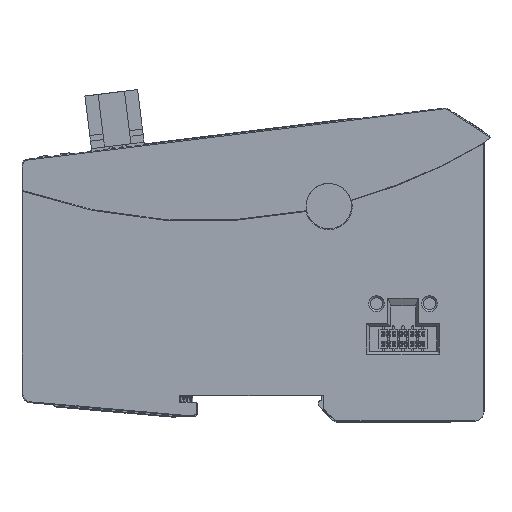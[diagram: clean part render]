
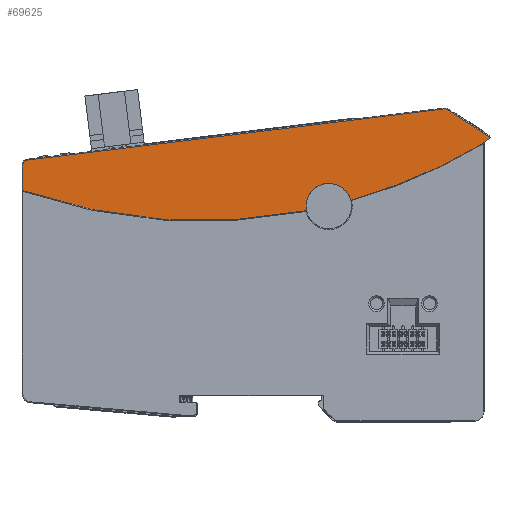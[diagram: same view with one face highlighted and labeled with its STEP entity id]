
A CAD part, top view. The second image highlights one B-rep face of the part: STEP entity #69625.
In plain terms, the highlighted planar face has unit normal (0, 0, 1).
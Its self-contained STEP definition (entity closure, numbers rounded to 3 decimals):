
#56630=AXIS2_PLACEMENT_3D('Circle Axis2P3D',#56628,#56629,$) ;
#56655=AXIS2_PLACEMENT_3D('Circle Axis2P3D',#56653,#56654,$) ;
#69462=AXIS2_PLACEMENT_3D('Circle Axis2P3D',#69460,#69461,$) ;
#69486=AXIS2_PLACEMENT_3D('Circle Axis2P3D',#69484,#69485,$) ;
#69499=AXIS2_PLACEMENT_3D('Plane Axis2P3D',#69496,#69497,#69498) ;
#69529=AXIS2_PLACEMENT_3D('Circle Axis2P3D',#69527,#69528,$) ;
#69561=AXIS2_PLACEMENT_3D('Circle Axis2P3D',#69559,#69560,$) ;
#69568=AXIS2_PLACEMENT_3D('Circle Axis2P3D',#69566,#69567,$) ;
#69604=AXIS2_PLACEMENT_3D('Circle Axis2P3D',#69602,#69603,$) ;
#48254=CARTESIAN_POINT('Vertex',(109.882,76.012,23.3)) ;
#48261=CARTESIAN_POINT('Vertex',(-0.258,62.488,23.3)) ;
#48264=CARTESIAN_POINT('Line Origine',(60.199,69.912,23.3)) ;
#56604=CARTESIAN_POINT('Vertex',(120.249,66.935,23.3)) ;
#56625=CARTESIAN_POINT('Vertex',(120.3,66.949,23.3)) ;
#56628=CARTESIAN_POINT('Axis2P3D Location',(120.3,66.849,23.3)) ;
#56650=CARTESIAN_POINT('Vertex',(120.399,67.159,23.3)) ;
#56653=CARTESIAN_POINT('Axis2P3D Location',(120.6,66.936,23.3)) ;
#69457=CARTESIAN_POINT('Vertex',(-1.4,61.198,23.3)) ;
#69460=CARTESIAN_POINT('Axis2P3D Location',(-0.1,61.198,23.3)) ;
#69481=CARTESIAN_POINT('Vertex',(110.749,75.812,23.3)) ;
#69484=CARTESIAN_POINT('Axis2P3D Location',(110.041,74.722,23.3)) ;
#69496=CARTESIAN_POINT('Axis2P3D Location',(-1.6,-1.675,23.3)) ;
#69501=CARTESIAN_POINT('Line Origine',(121.058,67.752,23.3)) ;
#69505=CARTESIAN_POINT('Vertex',(121.716,68.345,23.3)) ;
#69508=CARTESIAN_POINT('Line Origine',(121.673,68.545,23.3)) ;
#69512=CARTESIAN_POINT('Vertex',(121.631,68.745,23.3)) ;
#69515=CARTESIAN_POINT('Line Origine',(116.19,72.278,23.3)) ;
#69520=CARTESIAN_POINT('Line Origine',(-1.4,57.827,23.3)) ;
#69524=CARTESIAN_POINT('Vertex',(-1.4,54.456,23.3)) ;
#69527=CARTESIAN_POINT('Axis2P3D Location',(46.007,191.487,23.3)) ;
#69531=CARTESIAN_POINT('Vertex',(73.331,49.085,23.3)) ;
#69535=CARTESIAN_POINT('Control Point',(73.331,49.085,23.3)) ;
#69536=CARTESIAN_POINT('Control Point',(73.344,49.087,23.3)) ;
#69537=CARTESIAN_POINT('Control Point',(73.357,49.088,23.3)) ;
#69538=CARTESIAN_POINT('Control Point',(73.37,49.089,23.3)) ;
#69539=CARTESIAN_POINT('Control Point',(73.396,49.087,23.3)) ;
#69540=CARTESIAN_POINT('Control Point',(73.421,49.082,23.3)) ;
#69541=CARTESIAN_POINT('Control Point',(73.433,49.078,23.3)) ;
#69542=CARTESIAN_POINT('Control Point',(73.457,49.069,23.3)) ;
#69543=CARTESIAN_POINT('Control Point',(73.48,49.055,23.3)) ;
#69544=CARTESIAN_POINT('Control Point',(73.49,49.048,23.3)) ;
#69545=CARTESIAN_POINT('Control Point',(73.51,49.031,23.3)) ;
#69546=CARTESIAN_POINT('Control Point',(73.527,49.012,23.3)) ;
#69547=CARTESIAN_POINT('Control Point',(73.535,49.001,23.3)) ;
#69548=CARTESIAN_POINT('Control Point',(73.545,48.984,23.3)) ;
#69549=CARTESIAN_POINT('Control Point',(73.553,48.967,23.3)) ;
#69550=CARTESIAN_POINT('Control Point',(73.555,48.961,23.3)) ;
#69551=CARTESIAN_POINT('Control Point',(73.559,48.952,23.3)) ;
#69552=CARTESIAN_POINT('Control Point',(73.561,48.943,23.3)) ;
#69553=CARTESIAN_POINT('Control Point',(73.562,48.94,23.3)) ;
#69554=CARTESIAN_POINT('Control Point',(73.563,48.937,23.3)) ;
#69555=CARTESIAN_POINT('Control Point',(73.563,48.935,23.3)) ;
#69556=CARTESIAN_POINT('Vertex',(73.563,48.935,23.3)) ;
#69559=CARTESIAN_POINT('Axis2P3D Location',(79.4,50.325,23.3)) ;
#69563=CARTESIAN_POINT('Vertex',(73.4,50.325,23.3)) ;
#69566=CARTESIAN_POINT('Axis2P3D Location',(79.4,50.325,23.3)) ;
#69570=CARTESIAN_POINT('Vertex',(85.194,51.883,23.3)) ;
#69574=CARTESIAN_POINT('Control Point',(85.194,51.883,23.3)) ;
#69575=CARTESIAN_POINT('Control Point',(85.199,51.864,23.3)) ;
#69576=CARTESIAN_POINT('Control Point',(85.204,51.845,23.3)) ;
#69577=CARTESIAN_POINT('Control Point',(85.209,51.826,23.3)) ;
#69578=CARTESIAN_POINT('Control Point',(85.214,51.807,23.3)) ;
#69579=CARTESIAN_POINT('Control Point',(85.219,51.788,23.3)) ;
#69580=CARTESIAN_POINT('Vertex',(85.219,51.788,23.3)) ;
#69584=CARTESIAN_POINT('Control Point',(85.219,51.788,23.3)) ;
#69585=CARTESIAN_POINT('Control Point',(85.217,51.797,23.3)) ;
#69586=CARTESIAN_POINT('Control Point',(85.215,51.807,23.3)) ;
#69587=CARTESIAN_POINT('Control Point',(85.215,51.816,23.3)) ;
#69588=CARTESIAN_POINT('Control Point',(85.217,51.835,23.3)) ;
#69589=CARTESIAN_POINT('Control Point',(85.223,51.852,23.3)) ;
#69590=CARTESIAN_POINT('Control Point',(85.227,51.861,23.3)) ;
#69591=CARTESIAN_POINT('Control Point',(85.238,51.877,23.3)) ;
#69592=CARTESIAN_POINT('Control Point',(85.251,51.89,23.3)) ;
#69593=CARTESIAN_POINT('Control Point',(85.259,51.896,23.3)) ;
#69594=CARTESIAN_POINT('Control Point',(85.269,51.902,23.3)) ;
#69595=CARTESIAN_POINT('Control Point',(85.28,51.906,23.3)) ;
#69596=CARTESIAN_POINT('Control Point',(85.283,51.907,23.3)) ;
#69597=CARTESIAN_POINT('Control Point',(85.286,51.908,23.3)) ;
#69598=CARTESIAN_POINT('Control Point',(85.289,51.909,23.3)) ;
#69599=CARTESIAN_POINT('Vertex',(85.289,51.909,23.3)) ;
#69602=CARTESIAN_POINT('Axis2P3D Location',(46.007,191.487,23.3)) ;
#48265=DIRECTION('Vector Direction',(-0.993,-0.122,0.)) ;
#56629=DIRECTION('Axis2P3D Direction',(0.,0.,1.)) ;
#56654=DIRECTION('Axis2P3D Direction',(0.,0.,1.)) ;
#69461=DIRECTION('Axis2P3D Direction',(0.,0.,1.)) ;
#69485=DIRECTION('Axis2P3D Direction',(0.,0.,1.)) ;
#69497=DIRECTION('Axis2P3D Direction',(0.,0.,1.)) ;
#69498=DIRECTION('Axis2P3D XDirection',(1.,0.,0.)) ;
#69502=DIRECTION('Vector Direction',(0.743,0.669,0.)) ;
#69509=DIRECTION('Vector Direction',(-0.208,0.978,0.)) ;
#69516=DIRECTION('Vector Direction',(0.839,-0.545,0.)) ;
#69521=DIRECTION('Vector Direction',(0.,1.,0.)) ;
#69528=DIRECTION('Axis2P3D Direction',(0.,0.,1.)) ;
#69560=DIRECTION('Axis2P3D Direction',(0.,0.,1.)) ;
#69567=DIRECTION('Axis2P3D Direction',(0.,0.,1.)) ;
#69603=DIRECTION('Axis2P3D Direction',(0.,0.,1.)) ;
#48266=VECTOR('Line Direction',#48265,1.) ;
#69503=VECTOR('Line Direction',#69502,1.) ;
#69510=VECTOR('Line Direction',#69509,1.) ;
#69517=VECTOR('Line Direction',#69516,1.) ;
#69522=VECTOR('Line Direction',#69521,1.) ;
#69608=ORIENTED_EDGE('',*,*,#56632,.F.) ;
#69609=ORIENTED_EDGE('',*,*,#56657,.T.) ;
#69610=ORIENTED_EDGE('',*,*,#69507,.T.) ;
#69611=ORIENTED_EDGE('',*,*,#69514,.F.) ;
#69612=ORIENTED_EDGE('',*,*,#69519,.T.) ;
#69613=ORIENTED_EDGE('',*,*,#69488,.T.) ;
#69614=ORIENTED_EDGE('',*,*,#48268,.T.) ;
#69615=ORIENTED_EDGE('',*,*,#69464,.T.) ;
#69616=ORIENTED_EDGE('',*,*,#69526,.T.) ;
#69617=ORIENTED_EDGE('',*,*,#69533,.T.) ;
#69618=ORIENTED_EDGE('',*,*,#69558,.F.) ;
#69619=ORIENTED_EDGE('',*,*,#69565,.F.) ;
#69620=ORIENTED_EDGE('',*,*,#69572,.F.) ;
#69621=ORIENTED_EDGE('',*,*,#69582,.T.) ;
#69622=ORIENTED_EDGE('',*,*,#69601,.F.) ;
#69623=ORIENTED_EDGE('',*,*,#69606,.T.) ;
#69625=ADVANCED_FACE('K\X2\00F6\X0\rper.2',(#69624),#69500,.T.) ;
#69534=B_SPLINE_CURVE_WITH_KNOTS('',5,(#69535,#69536,#69537,#69538,#69539,#69540,#69541,#69542,#69543,#69544,#69545,#69546,#69547,#69548,#69549,#69550,#69551,#69552,#69553,#69554,#69555),.UNSPECIFIED.,.F.,.U.,(6,3,3,3,3,3,6),(0.,0.091,0.182,0.274,0.365,0.41,0.431),.UNSPECIFIED.) ;
#69573=B_SPLINE_CURVE_WITH_KNOTS('',5,(#69574,#69575,#69576,#69577,#69578,#69579),.UNSPECIFIED.,.F.,.U.,(6,6),(0.,0.14),.UNSPECIFIED.) ;
#69583=B_SPLINE_CURVE_WITH_KNOTS('',5,(#69584,#69585,#69586,#69587,#69588,#69589,#69590,#69591,#69592,#69593,#69594,#69595,#69596,#69597,#69598),.UNSPECIFIED.,.F.,.U.,(6,3,3,3,6),(0.,0.055,0.11,0.166,0.183),.UNSPECIFIED.) ;
#56631=CIRCLE('generated circle',#56630,0.1) ;
#56656=CIRCLE('generated circle',#56655,0.3) ;
#69463=CIRCLE('generated circle',#69462,1.3) ;
#69487=CIRCLE('generated circle',#69486,1.3) ;
#69530=CIRCLE('generated circle',#69529,145.) ;
#69562=CIRCLE('generated circle',#69561,6.) ;
#69569=CIRCLE('generated circle',#69568,6.) ;
#69605=CIRCLE('generated circle',#69604,145.) ;
#48268=EDGE_CURVE('',#48255,#48262,#48267,.T.) ;
#56632=EDGE_CURVE('',#56626,#56605,#56631,.T.) ;
#56657=EDGE_CURVE('',#56626,#56651,#56656,.F.) ;
#69464=EDGE_CURVE('',#48262,#69458,#69463,.T.) ;
#69488=EDGE_CURVE('',#69482,#48255,#69487,.T.) ;
#69507=EDGE_CURVE('',#56651,#69506,#69504,.T.) ;
#69514=EDGE_CURVE('',#69513,#69506,#69511,.F.) ;
#69519=EDGE_CURVE('',#69513,#69482,#69518,.F.) ;
#69526=EDGE_CURVE('',#69458,#69525,#69523,.F.) ;
#69533=EDGE_CURVE('',#69525,#69532,#69530,.T.) ;
#69558=EDGE_CURVE('',#69557,#69532,#69534,.F.) ;
#69565=EDGE_CURVE('',#69564,#69557,#69562,.T.) ;
#69572=EDGE_CURVE('',#69571,#69564,#69569,.T.) ;
#69582=EDGE_CURVE('',#69571,#69581,#69573,.T.) ;
#69601=EDGE_CURVE('',#69600,#69581,#69583,.F.) ;
#69606=EDGE_CURVE('',#69600,#56605,#69605,.T.) ;
#69607=EDGE_LOOP('',(#69608,#69609,#69610,#69611,#69612,#69613,#69614,#69615,#69616,#69617,#69618,#69619,#69620,#69621,#69622,#69623)) ;
#69624=FACE_OUTER_BOUND('',#69607,.T.) ;
#48267=LINE('Line',#48264,#48266) ;
#69504=LINE('Line',#69501,#69503) ;
#69511=LINE('Line',#69508,#69510) ;
#69518=LINE('Line',#69515,#69517) ;
#69523=LINE('Line',#69520,#69522) ;
#69500=PLANE('Plane',#69499) ;
#48255=VERTEX_POINT('',#48254) ;
#48262=VERTEX_POINT('',#48261) ;
#56605=VERTEX_POINT('',#56604) ;
#56626=VERTEX_POINT('',#56625) ;
#56651=VERTEX_POINT('',#56650) ;
#69458=VERTEX_POINT('',#69457) ;
#69482=VERTEX_POINT('',#69481) ;
#69506=VERTEX_POINT('',#69505) ;
#69513=VERTEX_POINT('',#69512) ;
#69525=VERTEX_POINT('',#69524) ;
#69532=VERTEX_POINT('',#69531) ;
#69557=VERTEX_POINT('',#69556) ;
#69564=VERTEX_POINT('',#69563) ;
#69571=VERTEX_POINT('',#69570) ;
#69581=VERTEX_POINT('',#69580) ;
#69600=VERTEX_POINT('',#69599) ;
